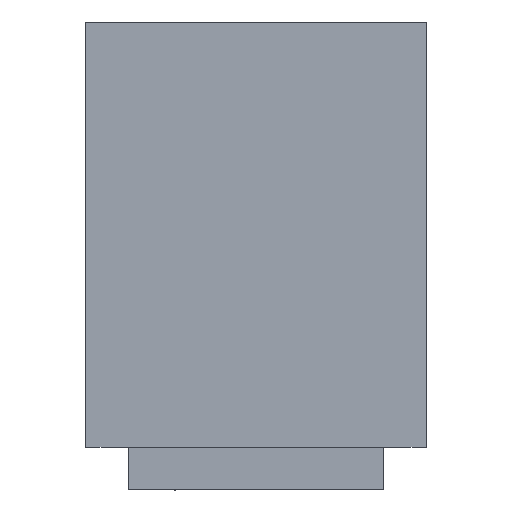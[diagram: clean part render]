
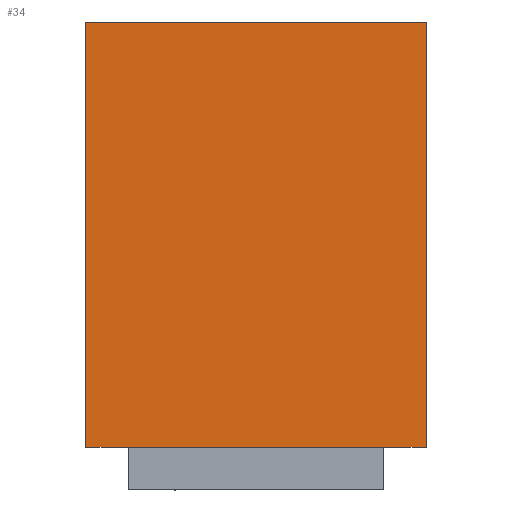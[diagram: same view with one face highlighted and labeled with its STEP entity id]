
A CAD part, front view. The second image highlights one B-rep face of the part: STEP entity #34.
In plain terms, the highlighted planar face has unit normal (0, -1, 0).
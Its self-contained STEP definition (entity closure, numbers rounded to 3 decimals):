
#34=ADVANCED_FACE('',(#56),#354,.T.);
#56=FACE_OUTER_BOUND('',#80,.T.);
#80=EDGE_LOOP('',(#165,#166,#167,#168,#169,#170));
#165=ORIENTED_EDGE('',*,*,#231,.T.);
#166=ORIENTED_EDGE('',*,*,#192,.F.);
#167=ORIENTED_EDGE('',*,*,#232,.T.);
#168=ORIENTED_EDGE('',*,*,#208,.F.);
#169=ORIENTED_EDGE('',*,*,#196,.F.);
#170=ORIENTED_EDGE('',*,*,#233,.F.);
#192=EDGE_CURVE('',#308,#309,#270,.T.);
#196=EDGE_CURVE('',#312,#314,#274,.T.);
#208=EDGE_CURVE('',#314,#323,#286,.T.);
#231=EDGE_CURVE('',#311,#309,#295,.T.);
#232=EDGE_CURVE('',#308,#323,#296,.T.);
#233=EDGE_CURVE('',#311,#312,#297,.T.);
#270=B_SPLINE_CURVE_WITH_KNOTS('',1,(#656,#657),.UNSPECIFIED.,.F.,.F.,(2,
2),(0.,20.),.UNSPECIFIED.);
#274=B_SPLINE_CURVE_WITH_KNOTS('',1,(#666,#667),.UNSPECIFIED.,.F.,.F.,(2,
2),(0.,2.),.UNSPECIFIED.);
#286=B_SPLINE_CURVE_WITH_KNOTS('',1,(#690,#691),.UNSPECIFIED.,.F.,.F.,(2,
2),(0.,12.),.UNSPECIFIED.);
#295=B_SPLINE_CURVE_WITH_KNOTS('',1,(#748,#749),.UNSPECIFIED.,.F.,.F.,(2,
2),(0.,16.),.UNSPECIFIED.);
#296=B_SPLINE_CURVE_WITH_KNOTS('',1,(#750,#751),.UNSPECIFIED.,.F.,.F.,(2,
2),(0.,2.),.UNSPECIFIED.);
#297=B_SPLINE_CURVE_WITH_KNOTS('',1,(#752,#753),.UNSPECIFIED.,.F.,.F.,(2,
2),(-20.,0.),.UNSPECIFIED.);
#308=VERTEX_POINT('',#620);
#309=VERTEX_POINT('',#621);
#311=VERTEX_POINT('',#623);
#312=VERTEX_POINT('',#624);
#314=VERTEX_POINT('',#626);
#323=VERTEX_POINT('',#635);
#354=PLANE('',#458);
#458=AXIS2_PLACEMENT_3D('',#612,#489,$);
#489=DIRECTION('',(0.,-1.,0.));
#612=CARTESIAN_POINT('',(-9.612,-13.499,13.012));
#620=CARTESIAN_POINT('',(-8.,-13.499,-9.));
#621=CARTESIAN_POINT('',(-8.,-13.499,11.));
#623=CARTESIAN_POINT('',(8.,-13.499,11.));
#624=CARTESIAN_POINT('',(8.,-13.499,-9.));
#626=CARTESIAN_POINT('',(6.,-13.499,-9.));
#635=CARTESIAN_POINT('',(-6.,-13.499,-9.));
#656=CARTESIAN_POINT('',(-8.,-13.499,-9.));
#657=CARTESIAN_POINT('',(-8.,-13.499,11.));
#666=CARTESIAN_POINT('',(8.,-13.499,-9.));
#667=CARTESIAN_POINT('',(6.,-13.499,-9.));
#690=CARTESIAN_POINT('',(6.,-13.499,-9.));
#691=CARTESIAN_POINT('',(-6.,-13.499,-9.));
#748=CARTESIAN_POINT('',(8.,-13.499,11.));
#749=CARTESIAN_POINT('',(-8.,-13.499,11.));
#750=CARTESIAN_POINT('',(-8.,-13.499,-9.));
#751=CARTESIAN_POINT('',(-6.,-13.499,-9.));
#752=CARTESIAN_POINT('',(8.,-13.499,11.));
#753=CARTESIAN_POINT('',(8.,-13.499,-9.));
